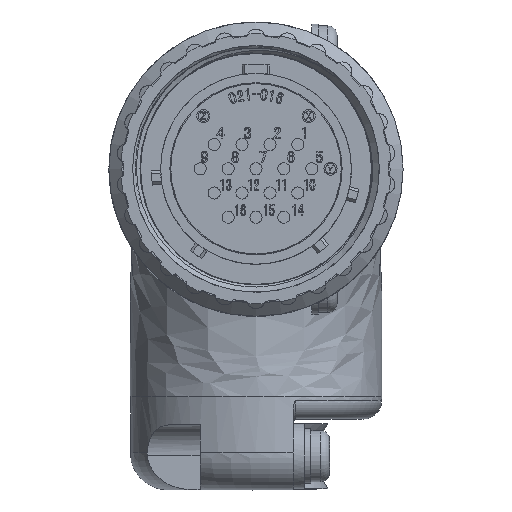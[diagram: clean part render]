
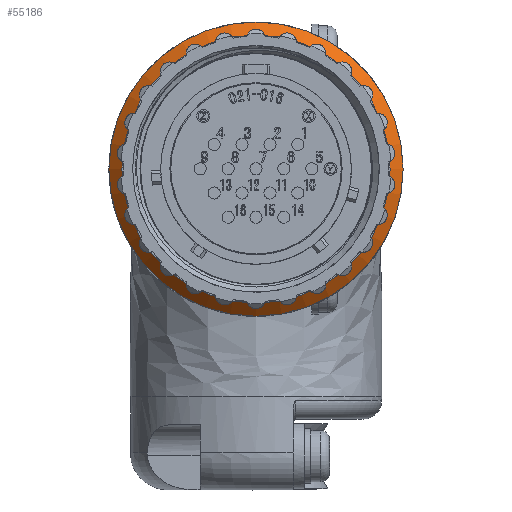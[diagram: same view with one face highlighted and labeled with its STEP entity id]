
A CAD part, top view. The second image highlights one B-rep face of the part: STEP entity #55186.
In plain terms, the highlighted conical face has half-angle 45 degrees and reference radius 14.4 mm.
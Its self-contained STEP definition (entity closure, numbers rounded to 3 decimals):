
#1143 = CARTESIAN_POINT ( 'NONE',  ( 15.8, 0., -22.13 ) ) ;
#1913 = DIRECTION ( 'NONE',  ( 1., 0., 0. ) ) ;
#2464 = CONICAL_SURFACE ( 'NONE', #33590, 14.4, 0.785 ) ;
#4990 = ORIENTED_EDGE ( 'NONE', *, *, #42484, .T. ) ;
#14270 = FACE_BOUND ( 'NONE', #25381, .T. ) ;
#18120 = VERTEX_POINT ( 'NONE', #1143 ) ;
#25381 = EDGE_LOOP ( 'NONE', ( #66259 ) ) ;
#26114 = DIRECTION ( 'NONE',  ( 0., 0., 1. ) ) ;
#27130 = DIRECTION ( 'NONE',  ( 1., 0., 0. ) ) ;
#30325 = DIRECTION ( 'NONE',  ( -1., 0., 0. ) ) ;
#33590 = AXIS2_PLACEMENT_3D ( 'NONE', #69627, #35871, #30325 ) ;
#35871 = DIRECTION ( 'NONE',  ( 0., 0., -1. ) ) ;
#37935 = VERTEX_POINT ( 'NONE', #60599 ) ;
#42484 = EDGE_CURVE ( 'NONE', #18120, #18120, #53159, .T. ) ;
#49587 = AXIS2_PLACEMENT_3D ( 'NONE', #61365, #73507, #27130 ) ;
#53159 = CIRCLE ( 'NONE', #49587, 15.8 ) ;
#55186 = ADVANCED_FACE ( 'NONE', ( #14270, #73785 ), #2464, .T. ) ;
#60599 = CARTESIAN_POINT ( 'NONE',  ( 14.4, 0., -20.73 ) ) ;
#61365 = CARTESIAN_POINT ( 'NONE',  ( 0., 0., -22.13 ) ) ;
#65896 = CARTESIAN_POINT ( 'NONE',  ( 0., 0., -20.73 ) ) ;
#66259 = ORIENTED_EDGE ( 'NONE', *, *, #72507, .F. ) ;
#69304 = AXIS2_PLACEMENT_3D ( 'NONE', #65896, #26114, #1913 ) ;
#69627 = CARTESIAN_POINT ( 'NONE',  ( 0., 0., -20.73 ) ) ;
#69958 = EDGE_LOOP ( 'NONE', ( #4990 ) ) ;
#72507 = EDGE_CURVE ( 'NONE', #37935, #37935, #72713, .T. ) ;
#72713 = CIRCLE ( 'NONE', #69304, 14.4 ) ;
#73507 = DIRECTION ( 'NONE',  ( 0., 0., 1. ) ) ;
#73785 = FACE_OUTER_BOUND ( 'NONE', #69958, .T. ) ;
